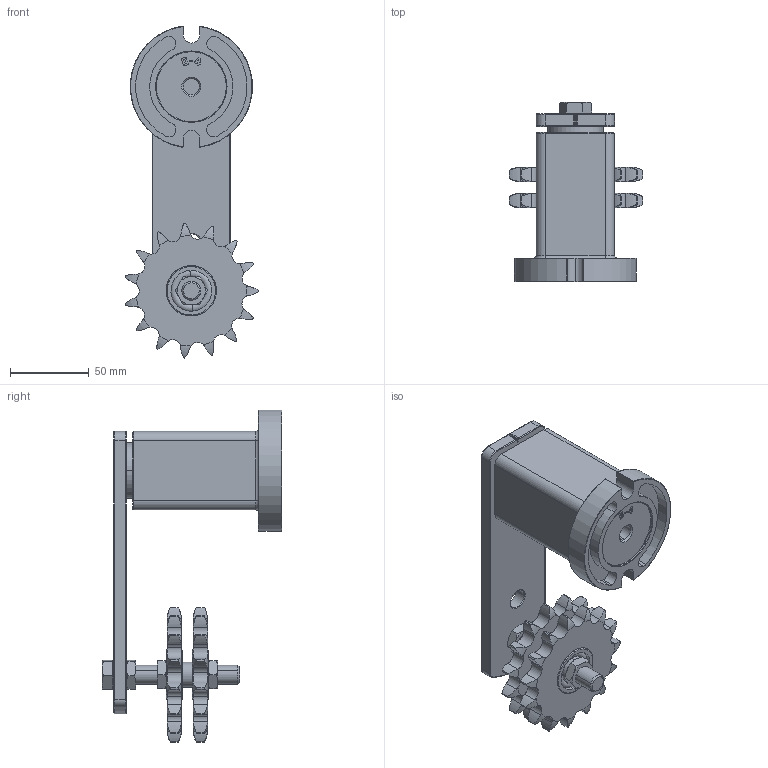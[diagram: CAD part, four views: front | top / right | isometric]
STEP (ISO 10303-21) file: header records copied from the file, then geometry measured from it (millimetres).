
FILE_DESCRIPTION (( 'STEP AP203' ), '1' );
FILE_NAME ('ER 4 - 5-8D cod. 94071542.STEP', '2017-08-28T13:32:32', ( '' ), ( '' ), 'SwSTEP 2.0', 'SolidWorks 2016', '' );
FILE_SCHEMA (( 'CONFIG_CONTROL_DESIGN' ));
Length unit declared in the file: millimetre
Products named in the file (10): ISO 4017 - M12 x 80-C_ISO 4017 - M12 x 80-C; R 5-8D M12 cod. 94061502; Chain wheel ISO - 15Z 10B-1 --15SA32.0N_Chain wheel ISO - 15Z 10B-1 --15SA32.0N; ISO - 4035 - M12 - N_ISO - 4035 - M12 - N; E4 cod. 94070004; SKF - 6201 - 8,SI,NC,8_68_SKF - 6201 - 8,SI,NC,8_68; E4_009_step; ER 4 - 5-8D cod. 94071542; DS 5-8 12-16-6.6; Leva E4_step
Assembly tree (13 placements, depth 3):
  ER 4 - 5-8D cod. 94071542
    E4 cod. 94070004
      Leva E4_step
      E4_009_step
    R 5-8D M12 cod. 94061502
      Chain wheel ISO - 15Z 10B-1 --15SA32.0N_Chain wheel ISO - 15Z 10B-1 --15SA32.0N  x2
      SKF - 6201 - 8,SI,NC,8_68_SKF - 6201 - 8,SI,NC,8_68  x2
      ISO 4017 - M12 x 80-C_ISO 4017 - M12 x 80-C
      ISO - 4035 - M12 - N_ISO - 4035 - M12 - N  x2
      DS 5-8 12-16-6.6
    ISO - 4035 - M12 - N_ISO - 4035 - M12 - N
Bounding box: 85.21 x 114.5 x 211.43 mm (x, y, z)
Volume: 346600 mm3; surface area: 114162.5 mm2
Topology: 11 solids, 11 shells, 561 faces, 1397 edges, 870 vertices
Faces by surface type: cylinder 243, plane 128, torus 114, cone 72, sphere 4
Entity records: 12747 total; most frequent: CARTESIAN_POINT 2758, DIRECTION 1901, ORIENTED_EDGE 1834, EDGE_CURVE 917, AXIS2_PLACEMENT_3D 771, VERTEX_POINT 570, EDGE_LOOP 403, CIRCLE 378
